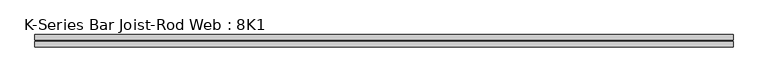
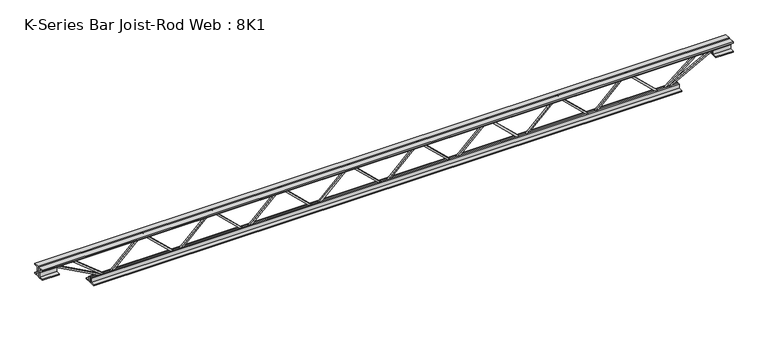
"""IFC4 building model written with IfcOpenShell, lengths in millimetres: beam geometry, K-Series Bar Joist-Rod Web : 8K1."""

from ifc_helpers import new_model, si_unit, frame, origin, place, context, project, spatial, polyline, outline, extrude, source, transform, mapped, element, save


def k_series_bar_joist_rod_web_8k1_28d6b3e6(model_context):
    return source(origin(), model_context, "Body", "SweptSolid", [
        extrude(outline(polyline([(-90.4875, 818.071879), (-100.0125, 818.071879), (-100.0125, 823.1647607), (90.4875, 1021.3327305), (90.4875, 1023.8469671), (-100.0125, 1222.0149368), (-100.0125, 1227.1078185), (-90.4875, 1227.1078185), (-90.4875, 1225.8507002), (100.0125, 1027.6827305), (100.0125, 1017.4969671), (-90.4875, 819.3289973), (-90.4875, 818.071879)])), frame((0.0, -4.7625, 0.0), z_axis=(0.0, 1.0, 0.0), x_axis=(0.0, 0.0, 1.0)), (0.0, 0.0, 1.0), 9.525),
        extrude(outline(polyline([(-90.4875, 409.0359395), (-100.0125, 409.0359395), (-100.0125, 414.1288212), (90.4875, 612.296791), (90.4875, 614.8110276), (-100.0125, 812.9789973), (-100.0125, 818.071879), (-90.4875, 818.071879), (-90.4875, 816.8147607), (100.0125, 618.646791), (100.0125, 608.4610276), (-90.4875, 410.2930578), (-90.4875, 409.0359395)])), frame((0.0, -4.7625, 0.0), z_axis=(0.0, 1.0, 0.0), x_axis=(0.0, 0.0, 1.0)), (0.0, 0.0, 1.0), 9.525),
        extrude(outline(polyline([(-90.4875, 0.0), (-100.0125, 0.0), (-100.0125, 5.0928817), (90.4875, 203.2608514), (90.4875, 205.7750881), (-100.0125, 403.9430578), (-100.0125, 409.0359395), (-90.4875, 409.0359395), (-90.4875, 407.7788212), (100.0125, 209.6108514), (100.0125, 199.4250881), (-90.4875, 1.2571183), (-90.4875, 0.0)])), frame((0.0, -4.7625, 0.0), z_axis=(0.0, 1.0, 0.0), x_axis=(0.0, 0.0, 1.0)), (0.0, 0.0, 1.0), 9.525),
        extrude(outline(polyline([(-90.4875, -409.0359395), (-100.0125, -409.0359395), (-100.0125, -403.9430578), (90.4875, -205.7750881), (90.4875, -203.2608514), (-100.0125, -5.0928817), (-100.0125, 0.0), (-90.4875, 0.0), (-90.4875, -1.2571183), (100.0125, -199.4250881), (100.0125, -209.6108514), (-90.4875, -407.7788212), (-90.4875, -409.0359395)])), frame((0.0, -4.7625, 0.0), z_axis=(0.0, 1.0, 0.0), x_axis=(0.0, 0.0, 1.0)), (0.0, 0.0, 1.0), 9.525),
        extrude(outline(polyline([(-90.4875, -818.071879), (-100.0125, -818.071879), (-100.0125, -812.9789973), (90.4875, -614.8110276), (90.4875, -612.296791), (-100.0125, -414.1288212), (-100.0125, -409.0359395), (-90.4875, -409.0359395), (-90.4875, -410.2930578), (100.0125, -608.4610276), (100.0125, -618.646791), (-90.4875, -816.8147607), (-90.4875, -818.071879)])), frame((0.0, -4.7625, 0.0), z_axis=(0.0, 1.0, 0.0), x_axis=(0.0, 0.0, 1.0)), (0.0, 0.0, 1.0), 9.525),
        extrude(outline(polyline([(-90.4875, -1227.1078185), (-100.0125, -1227.1078185), (-100.0125, -1222.0149368), (90.4875, -1023.8469671), (90.4875, -1021.3327305), (-100.0125, -823.1647607), (-100.0125, -818.071879), (-90.4875, -818.071879), (-90.4875, -819.3289973), (100.0125, -1017.4969671), (100.0125, -1027.6827305), (-90.4875, -1225.8507002), (-90.4875, -1227.1078185)])), frame((0.0, -4.7625, 0.0), z_axis=(0.0, 1.0, 0.0), x_axis=(0.0, 0.0, 1.0)), (0.0, 0.0, 1.0), 9.525),
        extrude(outline(polyline([(-90.4875, 1227.1078185), (-100.0125, 1227.1078185), (-100.0125, 1232.2007002), (90.4875, 1430.36867), (90.4875, 1432.8829066), (-100.0125, 1631.0508764), (-100.0125, 1636.143758), (-90.4875, 1636.143758), (-90.4875, 1634.8866397), (100.0125, 1436.71867), (100.0125, 1426.5329066), (-90.4875, 1228.3649368), (-90.4875, 1227.1078185)])), frame((0.0, -4.7625, 0.0), z_axis=(0.0, 1.0, 0.0), x_axis=(0.0, 0.0, 1.0)), (0.0, 0.0, 1.0), 9.525),
        extrude(outline(polyline([(-90.4875, -1636.143758), (-100.0125, -1636.143758), (-100.0125, -1631.0508764), (90.4875, -1432.8829066), (90.4875, -1430.36867), (-100.0125, -1232.2007002), (-100.0125, -1227.1078185), (-90.4875, -1227.1078185), (-90.4875, -1228.3649368), (100.0125, -1426.5329066), (100.0125, -1436.71867), (-90.4875, -1634.8866397), (-90.4875, -1636.143758)])), frame((0.0, -4.7625, 0.0), z_axis=(0.0, 1.0, 0.0), x_axis=(0.0, 0.0, 1.0)), (0.0, 0.0, 1.0), 9.525),
        extrude(outline(polyline([(4.7625, 101.6), (36.5125, 101.6), (36.5125, 95.25), (11.1125, 95.25), (11.1125, 69.85), (4.7625, 69.85), (4.7625, 101.6)])), frame((-2042.543758, 0.0, 0.0), z_axis=(1.0, 0.0, 0.0), x_axis=(0.0, 1.0, 0.0)), (0.0, 0.0, 1.0), 4085.0875161),
        extrude(outline(polyline([(-4.7625, 101.6), (-4.7625, 69.85), (-11.1125, 69.85), (-11.1125, 95.25), (-36.5125, 95.25), (-36.5125, 101.6), (-4.7625, 101.6)])), frame((-2042.543758, 0.0, 0.0), z_axis=(1.0, 0.0, 0.0), x_axis=(0.0, 1.0, 0.0)), (0.0, 0.0, 1.0), 4085.0875161),
        extrude(outline(polyline([(-4.7625, 38.1), (-36.5125, 38.1), (-36.5125, 44.45), (-11.1125, 44.45), (-11.1125, 69.85), (-4.7625, 69.85), (-4.7625, 38.1)])), frame((-2042.543758, 0.0, 0.0), z_axis=(1.0, 0.0, 0.0), x_axis=(0.0, 1.0, 0.0)), (0.0, 0.0, 1.0), 101.6),
        extrude(outline(polyline([(36.5125, 38.1), (4.7625, 38.1), (4.7625, 69.85), (11.1125, 69.85), (11.1125, 44.45), (36.5125, 44.45), (36.5125, 38.1)])), frame((-2042.543758, 0.0, 0.0), z_axis=(1.0, 0.0, 0.0), x_axis=(0.0, 1.0, 0.0)), (0.0, 0.0, 1.0), 101.6),
        extrude(outline(polyline([(4.7625, 38.1), (4.7625, 69.85), (11.1125, 69.85), (11.1125, 44.45), (36.5125, 44.45), (36.5125, 38.1), (4.7625, 38.1)])), frame((1940.943758, 0.0, 0.0), z_axis=(1.0, 0.0, 0.0), x_axis=(0.0, 1.0, 0.0)), (0.0, 0.0, 1.0), 101.6),
        extrude(outline(polyline([(-4.7625, 38.1), (-36.5125, 38.1), (-36.5125, 44.45), (-11.1125, 44.45), (-11.1125, 69.85), (-4.7625, 69.85), (-4.7625, 38.1)])), frame((1940.943758, 0.0, 0.0), z_axis=(1.0, 0.0, 0.0), x_axis=(0.0, 1.0, 0.0)), (0.0, 0.0, 1.0), 101.6),
        extrude(outline(polyline([(4.7625, -101.6), (4.7625, -69.85), (11.1125, -69.85), (11.1125, -95.25), (36.5125, -95.25), (36.5125, -101.6), (4.7625, -101.6)])), frame((-1737.743758, 0.0, 0.0), z_axis=(1.0, 0.0, 0.0), x_axis=(0.0, 1.0, 0.0)), (0.0, 0.0, 1.0), 3475.4875161),
        extrude(outline(polyline([(-4.7625, -101.6), (-36.5125, -101.6), (-36.5125, -95.25), (-11.1125, -95.25), (-11.1125, -69.85), (-4.7625, -69.85), (-4.7625, -101.6)])), frame((-1737.743758, 0.0, 0.0), z_axis=(1.0, 0.0, 0.0), x_axis=(0.0, 1.0, 0.0)), (0.0, 0.0, 1.0), 3475.4875161),
        extrude(outline(polyline([(0.0, -9.525), (0.0, 0.0), (346.6425392, 0.0), (346.6425392, -9.525), (0.0, -9.525)])), frame((-1943.2120565, 4.7625, 65.662372), z_axis=(0.4762831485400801, 0.0, 0.8792919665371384), x_axis=(0.8792919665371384, 0.0, -0.4762831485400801)), (0.0, 0.0, 1.0), 9.525),
        extrude(outline(polyline([(0.0, -9.525), (0.0, 0.0), (262.841416, 0.0), (262.841416, -9.525), (0.0, -9.525)])), frame((-1843.6532227, 4.7625, 66.1442795), z_axis=(0.6281354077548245, 0.0, 0.7781040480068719), x_axis=(0.7781040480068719, 0.0, -0.6281354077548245)), (0.0, 0.0, 1.0), 9.525),
        extrude(outline(polyline([(0.0, -9.525), (0.0, 0.0), (346.6425392, 0.0), (346.6425392, -9.525), (0.0, -9.525)])), frame((1943.2120565, -4.7625, 65.662372), z_axis=(-0.47628314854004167, 0.0, 0.8792919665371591), x_axis=(-0.8792919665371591, 0.0, -0.47628314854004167)), (0.0, 0.0, 1.0), 9.525),
        extrude(outline(polyline([(0.0, -9.525), (0.0, 0.0), (262.841416, 0.0), (262.841416, -9.525), (0.0, -9.525)])), frame((1843.6532227, -4.7625, 66.1442795), z_axis=(-0.6281354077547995, 0.0, 0.778104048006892), x_axis=(-0.778104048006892, 0.0, -0.6281354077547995)), (0.0, 0.0, 1.0), 9.525),
    ])


if __name__ == "__main__":
    model = new_model("IFC4")
    model_context = context("Model", 3, world=origin())
    ifc_project = project(units=[si_unit("LENGTHUNIT", "METRE", prefix="MILLI")], contexts=[model_context])
    site = spatial("IfcSite", under=ifc_project)
    building = spatial("IfcBuilding", under=site)
    placement = place(None, origin())
    k_series_bar_joist_rod_web_8k1_shape = k_series_bar_joist_rod_web_8k1_28d6b3e6(model_context)
    element("IfcBeam", 1, ObjectType="K-Series Bar Joist-Rod Web : 8K1", at=placement, inside=building, context=model_context, shape_type="MappedRepresentation", body=[
        mapped(k_series_bar_joist_rod_web_8k1_shape, transform((0.0, 0.0, 0.0), x_axis=(1.0, 0.0, 0.0), y_axis=(0.0, 1.0, 0.0), z_axis=(0.0, 0.0, 1.0))),
    ])
    save(model, "model.ifc")
